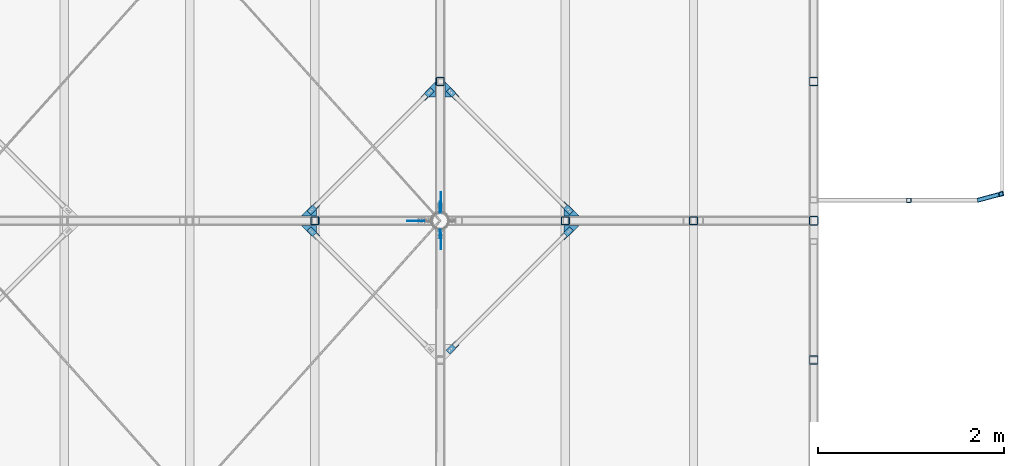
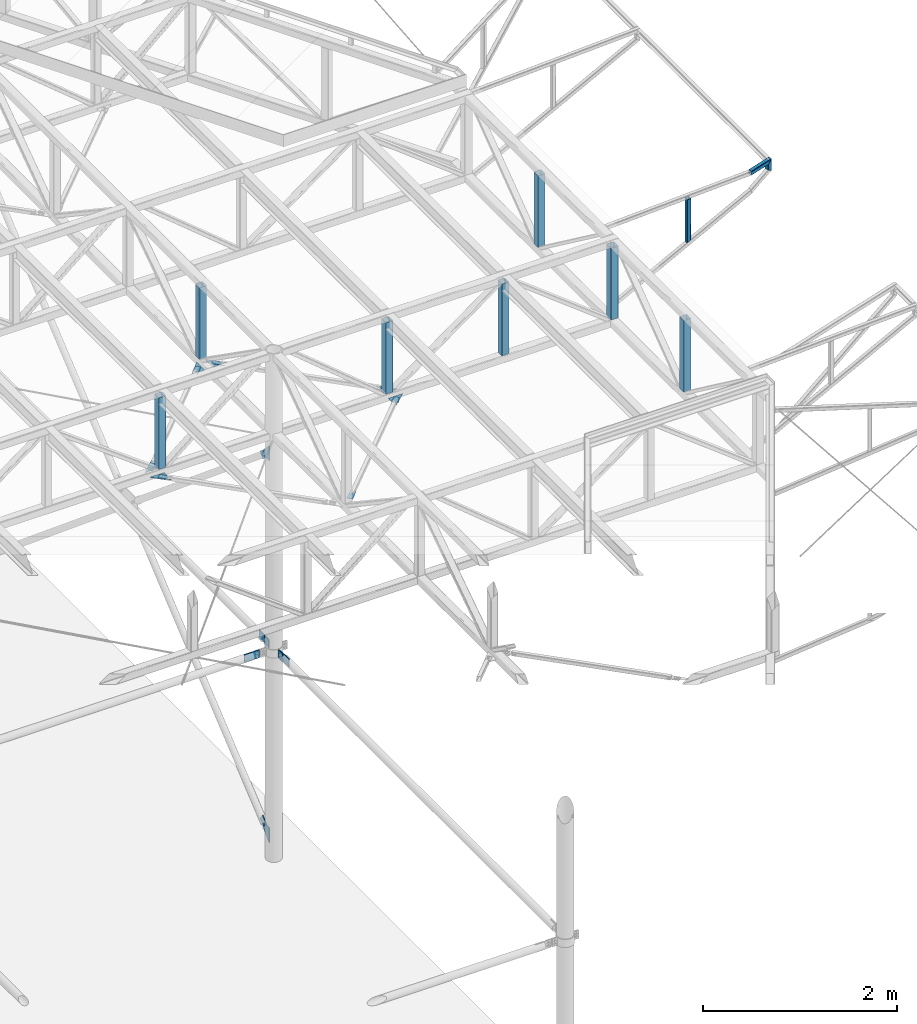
# One storey, part 84 of 132: 32 discrete accessories, 19 elements without a shape of their own.
"""IFC2X3 building model written with IfcOpenShell, lengths in millimetres."""

from ifc_helpers import new_model, si_unit, frame, origin_with_axes, origin_2d_with_axis, place, context, subcontext, project, spatial, polyline, rectangle, hollow_rectangle, outline, extrude, boolean, clip, halfspace, material, type_object, element, aggregate, save


model = new_model("IFC2X3")

# Units and contexts
model_context = context("Model", 3, precision=1e-05, world=origin_with_axes())
body_context = subcontext(model_context, "Body", "Model", "MODEL_VIEW")
ifc_project = project(units=[si_unit("LENGTHUNIT", "METRE", prefix="MILLI"), si_unit("AREAUNIT", "SQUARE_METRE"), si_unit("VOLUMEUNIT", "CUBIC_METRE"), si_unit("MASSUNIT", "GRAM", prefix="KILO"), si_unit("TIMEUNIT", "SECOND"), si_unit("PLANEANGLEUNIT", "RADIAN"), si_unit("SOLIDANGLEUNIT", "STERADIAN"), si_unit("THERMODYNAMICTEMPERATUREUNIT", "DEGREE_CELSIUS"), si_unit("LUMINOUSINTENSITYUNIT", "LUMEN")], contexts=[model_context])

# Site, building, storey
site_placement = place(None, origin_with_axes())
site = spatial("IfcSite", under=ifc_project, at=site_placement, Name="Budowa", CompositionType="ELEMENT")
building_placement = place(site_placement, origin_with_axes())
building = spatial("IfcBuilding", under=site, at=building_placement, Name="Undefined", CompositionType="ELEMENT")
storey_placement = place(building_placement, origin_with_axes())
storey = spatial("IfcBuildingStorey", under=building, at=storey_placement, Name="Undefined", CompositionType="ELEMENT", Elevation=0.0)

# Assembly, discrete accessory
assembly_1_placement = place(storey_placement, origin_with_axes())
assembly_1 = element("IfcElementAssembly", 1, at=assembly_1_placement, inside=storey, Name="Steel Assembly", AssemblyPlace="NOTDEFINED", PredefinedType="RIGID_FRAME")
ifc_material = material(Name="STEEL/S235")
discrete_accessory_type_1 = type_object("IfcDiscreteAccessoryType", Name="BLACHA")
discrete_accessory_1_placement = place(assembly_1_placement, frame((20232.9999972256, 11872.0920947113, 10116.0003779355), z_axis=(-1.0, 0.0, 0.0), x_axis=(0.0, -1.0, 0.0)))
discrete_accessory_1 = element("IfcDiscreteAccessory", 2, at=discrete_accessory_1_placement, type_object=discrete_accessory_type_1, material=ifc_material, Name="BLACHA", ObjectType="BL8*100", context=body_context, shape_type="SweptSolid", body=[
    extrude(outline(polyline([(180.0, -50.0), (0.0, -50.0), (0.0, 50.0), (180.0, 50.0), (180.0, -50.0)])), frame((0.0, 0.0, -4.0), z_axis=(0.0, 0.0, 1.0), x_axis=(1.0, 0.0, 0.0)), (0.0, 0.0, 1.0), 8.0),
])
aggregate(assembly_1, [discrete_accessory_1])

assembly_2_placement = place(storey_placement, origin_with_axes())
assembly_2 = element("IfcElementAssembly", 3, at=assembly_2_placement, inside=storey, Name="Steel Assembly", AssemblyPlace="NOTDEFINED", PredefinedType="RIGID_FRAME")
discrete_accessory_2_placement = place(assembly_2_placement, frame((20224.9999972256, 11902.0043566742, 10066.0003759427), z_axis=(1.0, 0.0, 0.0), x_axis=(0.0, 0.0, 1.0)))
discrete_accessory_2 = element("IfcDiscreteAccessory", 4, at=discrete_accessory_2_placement, type_object=discrete_accessory_type_1, material=ifc_material, Name="BLACHA", ObjectType="BL8*90", context=body_context, shape_type="SweptSolid", body=[
    extrude(outline(polyline([(0.0, 0.0), (100.0, 0.0), (100.0, 89.9122619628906), (0.0, 89.9122619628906), (0.0, 0.0)])), frame((0.0, 0.0, -4.0), z_axis=(0.0, 0.0, 1.0), x_axis=(1.0, 0.0, 0.0)), (0.0, 0.0, 1.0), 8.0),
])
aggregate(assembly_2, [discrete_accessory_2])

assembly_3_placement = place(storey_placement, origin_with_axes())
assembly_3 = element("IfcElementAssembly", 5, at=assembly_3_placement, inside=storey, Name="Steel Assembly", AssemblyPlace="NOTDEFINED", PredefinedType="RIGID_FRAME")
discrete_accessory_3_placement = place(assembly_3_placement, frame((20232.9999969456, 12127.9079054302, 10116.0003779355), z_axis=(-1.0, 0.0, 0.0), x_axis=(0.0, 1.0, 0.0)))
discrete_accessory_3 = element("IfcDiscreteAccessory", 6, at=discrete_accessory_3_placement, type_object=discrete_accessory_type_1, material=ifc_material, Name="BLACHA", ObjectType="BL8*100", context=body_context, shape_type="SweptSolid", body=[
    extrude(outline(polyline([(0.0, 50.0), (180.0, 50.0), (180.0, -50.0), (0.0, -50.0), (0.0, 50.0)])), frame((0.0, 0.0, -4.0), z_axis=(0.0, 0.0, 1.0), x_axis=(1.0, 0.0, 0.0)), (0.0, 0.0, 1.0), 8.0),
])
aggregate(assembly_3, [discrete_accessory_3])

assembly_4_placement = place(storey_placement, origin_with_axes())
assembly_4 = element("IfcElementAssembly", 7, at=assembly_4_placement, inside=storey, Name="Steel Assembly", AssemblyPlace="NOTDEFINED", PredefinedType="RIGID_FRAME")
discrete_accessory_4_placement = place(assembly_4_placement, frame((20224.9999969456, 12097.9956434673, 10166.0003762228), z_axis=(1.0, 0.0, 0.0), x_axis=(0.0, 0.0, -1.0)))
discrete_accessory_4 = element("IfcDiscreteAccessory", 8, at=discrete_accessory_4_placement, type_object=discrete_accessory_type_1, material=ifc_material, Name="BLACHA", ObjectType="BL8*90", context=body_context, shape_type="SweptSolid", body=[
    extrude(outline(polyline([(0.0, 0.0), (100.0, 0.0), (100.0, 89.9122619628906), (0.0, 89.9122619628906), (0.0, 0.0)])), frame((0.0, 0.0, -4.0), z_axis=(0.0, 0.0, 1.0), x_axis=(1.0, 0.0, 0.0)), (0.0, 0.0, 1.0), 8.0),
])
aggregate(assembly_4, [discrete_accessory_4])

assembly_5_placement = place(storey_placement, origin_with_axes())
assembly_5 = element("IfcElementAssembly", 9, at=assembly_5_placement, inside=storey, Name="Steel Assembly", AssemblyPlace="NOTDEFINED", PredefinedType="RIGID_FRAME")
discrete_accessory_5_placement = place(assembly_5_placement, frame((20051.8633056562, 11997.9999994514, 10116.0003779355), z_axis=(0.0, 1.0, 0.0), x_axis=(-1.0, 0.0, 0.0)))
discrete_accessory_5 = element("IfcDiscreteAccessory", 10, at=discrete_accessory_5_placement, type_object=discrete_accessory_type_1, material=ifc_material, Name="BLACHA", ObjectType="BL8*100", context=body_context, shape_type="SweptSolid", body=[
    extrude(outline(polyline([(180.0, -50.0), (0.0, -50.0), (0.0, 50.0), (180.0, 50.0), (180.0, -50.0)])), frame((0.0, 0.0, -4.0), z_axis=(0.0, 0.0, 1.0), x_axis=(1.0, 0.0, 0.0)), (0.0, 0.0, 1.0), 8.0),
])
aggregate(assembly_5, [discrete_accessory_5])

assembly_6_placement = place(storey_placement, origin_with_axes())
assembly_6 = element("IfcElementAssembly", 11, at=assembly_6_placement, inside=storey, Name="Steel Assembly", AssemblyPlace="NOTDEFINED", PredefinedType="RIGID_FRAME")
discrete_accessory_6_placement = place(assembly_6_placement, frame((20232.9999999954, 12120.951207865, 7723.25167813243), z_axis=(0.0, 0.639165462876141, -0.769069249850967), x_axis=(0.0, 0.769069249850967, 0.639165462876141)))
discrete_accessory_6 = element("IfcDiscreteAccessory", 12, at=discrete_accessory_6_placement, type_object=discrete_accessory_type_1, material=ifc_material, Name="BLACHA", ObjectType="BL8*86", context=body_context, shape_type="CSG", body=[
    boolean("DIFFERENCE", boolean("DIFFERENCE", extrude(rectangle(XDim=8.0, YDim=86.0, at=origin_2d_with_axis()), frame((190.000000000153, -3.63797880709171e-12, 3.30513394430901e-13), z_axis=(-1.0, 0.0, 0.0), x_axis=(0.0, -1.0, 0.0)), (0.0, 0.0, 1.0), 190.0), extrude(outline(polyline([(0.0, 0.0), (20.0000000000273, -3.63797880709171e-12), (5.45696821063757e-12, 20.0000000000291), (0.0, 0.0)])), frame((0.0, 6.50000013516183, -43.0), z_axis=(0.0, -1.0, 0.0), x_axis=(1.0, 0.0, 0.0)), (0.0, 0.0, 1.0), 13.0)), extrude(outline(polyline([(0.0, 0.0), (20.0000000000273, -3.63797880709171e-12), (5.45696821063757e-12, 20.0000000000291), (0.0, 0.0)])), frame((3.63797880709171e-12, -6.49999986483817, 43.0), z_axis=(0.0, 1.0, 0.0), x_axis=(1.0, 0.0, 0.0)), (0.0, 0.0, 1.0), 13.0)),
])
aggregate(assembly_6, [discrete_accessory_6])

assembly_7_placement = place(storey_placement, origin_with_axes())
assembly_7 = element("IfcElementAssembly", 13, at=assembly_7_placement, inside=storey, Name="Steel Assembly", AssemblyPlace="NOTDEFINED", PredefinedType="RIGID_FRAME")
discrete_accessory_7_placement = place(assembly_7_placement, frame((20225.0000024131, 12088.9000000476, 7811.00054931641), z_axis=(1.0, 0.0, 0.0), x_axis=(0.0, 0.0, -1.0)))
discrete_accessory_7 = element("IfcDiscreteAccessory", 14, at=discrete_accessory_7_placement, type_object=discrete_accessory_type_1, material=ifc_material, Name="BLACHA", ObjectType="BL8*126", context=body_context, shape_type="SweptSolid", body=[
    extrude(outline(polyline([(0.0, 0.0), (188.000686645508, 0.0), (188.000686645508, 10.0), (60.999870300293, 126.000648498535), (3.18323145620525e-09, 76.0014114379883), (0.0, 0.0)])), frame((0.0, 0.0, -4.0), z_axis=(0.0, 0.0, 1.0), x_axis=(1.0, 0.0, 0.0)), (0.0, 0.0, 1.0), 8.0),
])

assembly_8_placement = place(storey_placement, origin_with_axes())
assembly_8 = element("IfcElementAssembly", 15, at=assembly_8_placement, inside=storey, Name="Steel Assembly", AssemblyPlace="NOTDEFINED", PredefinedType="RIGID_FRAME")
discrete_accessory_8_placement = place(assembly_8_placement, frame((20232.9999999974, 12120.9512117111, 12508.7489949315), z_axis=(0.0, -0.63916553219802, -0.769069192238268), x_axis=(0.0, 0.769069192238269, -0.639165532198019)))
discrete_accessory_8 = element("IfcDiscreteAccessory", 16, at=discrete_accessory_8_placement, type_object=discrete_accessory_type_1, material=ifc_material, Name="BLACHA", ObjectType="BL8*86", context=body_context, shape_type="CSG", body=[
    boolean("DIFFERENCE", boolean("DIFFERENCE", extrude(rectangle(XDim=8.0, YDim=86.0, at=origin_2d_with_axis()), frame((190.000000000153, -3.63797880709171e-12, 3.30513394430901e-13), z_axis=(-1.0, 0.0, 0.0), x_axis=(0.0, -1.0, 0.0)), (0.0, 0.0, 1.0), 190.0), extrude(outline(polyline([(0.0, 0.0), (20.0000000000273, -3.63797880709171e-12), (5.45696821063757e-12, 20.0000000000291), (0.0, 0.0)])), frame((0.0, 6.50000013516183, -43.0), z_axis=(0.0, -1.0, 0.0), x_axis=(1.0, 0.0, 0.0)), (0.0, 0.0, 1.0), 13.0)), extrude(outline(polyline([(0.0, 0.0), (20.0000000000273, -3.63797880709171e-12), (5.45696821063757e-12, 20.0000000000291), (0.0, 0.0)])), frame((3.63797880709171e-12, -6.49999986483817, 43.0), z_axis=(0.0, 1.0, 0.0), x_axis=(1.0, 0.0, 0.0)), (0.0, 0.0, 1.0), 13.0)),
])
aggregate(assembly_8, [discrete_accessory_8])

# Discrete accessory
discrete_accessory_9_placement = place(assembly_7_placement, frame((20225.000002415, 12088.9000000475, 12608.9999313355), z_axis=(1.0, 0.0, 0.0), x_axis=(0.0, 0.0, -1.0)))
discrete_accessory_9 = element("IfcDiscreteAccessory", 17, at=discrete_accessory_9_placement, type_object=discrete_accessory_type_1, material=ifc_material, Name="BLACHA", ObjectType="BL8*126", context=body_context, shape_type="SweptSolid", body=[
    extrude(outline(polyline([(0.0, 0.0), (187.999725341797, 0.0), (187.999725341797, 76.0014114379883), (126.999855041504, 126.000648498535), (0.0, 10.0), (0.0, 0.0)])), frame((0.0, 0.0, -4.0), z_axis=(0.0, 0.0, 1.0), x_axis=(1.0, 0.0, 0.0)), (0.0, 0.0, 1.0), 8.0),
])

aggregate(assembly_7, [discrete_accessory_7, discrete_accessory_9])

# Assembly, discrete accessory
assembly_9_placement = place(storey_placement, origin_with_axes())
assembly_9 = element("IfcElementAssembly", 18, at=assembly_9_placement, inside=storey, Name="Steel Assembly", AssemblyPlace="NOTDEFINED", PredefinedType="RIGID_FRAME")
discrete_accessory_10_placement = place(assembly_9_placement, frame((21519.3786419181, 12162.9949513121, 12830.0), z_axis=(0.0, 0.0, 1.0), x_axis=(0.707106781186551, -0.707106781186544, 0.0)))
discrete_accessory_10 = element("IfcDiscreteAccessory", 19, at=discrete_accessory_10_placement, type_object=discrete_accessory_type_1, material=ifc_material, Name="BLACHA", ObjectType="BL6*60", context=body_context, shape_type="SweptSolid", body=[
    extrude(outline(polyline([(0.0, 0.0), (139.99999999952, -6.2755134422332e-10), (139.99999999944, 59.9999999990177), (0.0, 60.0), (-8.00355337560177e-11, 54.9999999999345), (49.9999999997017, 54.9999999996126), (49.9999999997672, 4.99999999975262), (-8.73114913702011e-11, 5.00000000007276), (0.0, 0.0)])), frame((0.0, 0.0, -3.0), z_axis=(0.0, 0.0, 1.0), x_axis=(1.0, 0.0, 0.0)), (0.0, 0.0, 1.0), 6.0),
])

assembly_10_placement = place(storey_placement, origin_with_axes())
assembly_10 = element("IfcElementAssembly", 20, at=assembly_10_placement, inside=storey, Name="Steel Assembly", AssemblyPlace="NOTDEFINED", PredefinedType="RIGID_FRAME")
discrete_accessory_11_placement = place(assembly_10_placement, frame((21558.2695167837, 12050.000000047, 12824.0), z_axis=(0.0, 0.0, 1.0), x_axis=(1.0, 0.0, 0.0)))
discrete_accessory_11 = element("IfcDiscreteAccessory", 21, at=discrete_accessory_11_placement, type_object=discrete_accessory_type_1, material=ifc_material, Name="BLACHA", ObjectType="BL6*117", context=body_context, shape_type="SweptSolid", body=[
    extrude(outline(polyline([(0.0, 0.0), (166.027954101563, 0.0), (49.4974746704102, 116.530487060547), (0.0, 67.0330123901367), (0.0, 0.0)])), frame((0.0, 0.0, -3.0), z_axis=(0.0, 0.0, 1.0), x_axis=(1.0, 0.0, 0.0)), (0.0, 0.0, 1.0), 6.0),
])

# Discrete accessory
discrete_accessory_12_placement = place(assembly_9_placement, frame((20430.4213581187, 13336.8050488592, 12830.0), z_axis=(0.0, 0.0, 1.0), x_axis=(-0.707106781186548, 0.707106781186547, 0.0)))
discrete_accessory_12 = element("IfcDiscreteAccessory", 22, at=discrete_accessory_12_placement, type_object=discrete_accessory_type_1, material=ifc_material, Name="BLACHA", ObjectType="BL6*60", context=body_context, shape_type="SweptSolid", body=[
    extrude(outline(polyline([(0.0, 0.0), (139.99999999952, -6.2755134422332e-10), (139.99999999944, 59.9999999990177), (0.0, 60.0), (-8.00355337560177e-11, 54.9999999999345), (49.9999999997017, 54.9999999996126), (49.9999999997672, 4.99999999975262), (-8.73114913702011e-11, 5.00000000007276), (0.0, 0.0)])), frame((0.0, 0.0, -3.0), z_axis=(0.0, 0.0, 1.0), x_axis=(1.0, 0.0, 0.0)), (0.0, 0.0, 1.0), 6.0),
])

aggregate(assembly_9, [discrete_accessory_10, discrete_accessory_12])

# Assembly, discrete accessory
assembly_11_placement = place(storey_placement, origin_with_axes())
assembly_11 = element("IfcElementAssembly", 23, at=assembly_11_placement, inside=storey, Name="Steel Assembly", AssemblyPlace="NOTDEFINED", PredefinedType="RIGID_FRAME")
discrete_accessory_13_placement = place(assembly_11_placement, frame((20275.0, 13499.2974747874, 12824.0), z_axis=(0.0, 0.0, 1.0), x_axis=(0.0, -1.0, 0.0)))
discrete_accessory_13 = element("IfcDiscreteAccessory", 24, at=discrete_accessory_13_placement, type_object=discrete_accessory_type_1, material=ifc_material, Name="BLACHA", ObjectType="BL6*117", context=body_context, shape_type="SweptSolid", body=[
    extrude(outline(polyline([(0.0, 0.0), (166.027954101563, 0.0), (166.027954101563, 67.0330123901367), (116.530487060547, 116.530487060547), (0.0, 0.0)])), frame((0.0, 0.0, -3.0), z_axis=(0.0, 0.0, 1.0), x_axis=(1.0, 0.0, 0.0)), (0.0, 0.0, 1.0), 6.0),
])

assembly_12_placement = place(storey_placement, origin_with_axes())
assembly_12 = element("IfcElementAssembly", 25, at=assembly_12_placement, inside=storey, Name="Steel Assembly", AssemblyPlace="NOTDEFINED", PredefinedType="RIGID_FRAME")
discrete_accessory_14_placement = place(assembly_12_placement, frame((21562.0050487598, 11794.5786419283, 12830.0), z_axis=(0.0, 0.0, 1.0), x_axis=(0.707106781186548, 0.707106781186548, 0.0)))
discrete_accessory_14 = element("IfcDiscreteAccessory", 26, at=discrete_accessory_14_placement, type_object=discrete_accessory_type_1, material=ifc_material, Name="BLACHA", ObjectType="BL6*60", context=body_context, shape_type="SweptSolid", body=[
    extrude(outline(polyline([(0.0, 0.0), (139.99999999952, -6.2755134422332e-10), (139.99999999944, 59.9999999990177), (0.0, 60.0), (-8.00355337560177e-11, 54.9999999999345), (49.9999999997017, 54.9999999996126), (49.9999999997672, 4.99999999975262), (-8.73114913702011e-11, 5.00000000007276), (0.0, 0.0)])), frame((0.0, 0.0, -3.0), z_axis=(0.0, 0.0, 1.0), x_axis=(1.0, 0.0, 0.0)), (0.0, 0.0, 1.0), 6.0),
])

# Discrete accessory
discrete_accessory_15_placement = place(assembly_10_placement, frame((21724.4974746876, 11950.000000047, 12824.0), z_axis=(0.0, 0.0, 1.0), x_axis=(-1.0, 0.0, 0.0)))
discrete_accessory_15 = element("IfcDiscreteAccessory", 27, at=discrete_accessory_15_placement, type_object=discrete_accessory_type_1, material=ifc_material, Name="BLACHA", ObjectType="BL6*117", context=body_context, shape_type="SweptSolid", body=[
    extrude(outline(polyline([(0.0, 0.0), (166.027954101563, 0.0), (166.027954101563, 67.0330123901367), (116.530487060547, 116.530487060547), (0.0, 0.0)])), frame((0.0, 0.0, -3.0), z_axis=(0.0, 0.0, 1.0), x_axis=(1.0, 0.0, 0.0)), (0.0, 0.0, 1.0), 6.0),
])

discrete_accessory_16_placement = place(assembly_12_placement, frame((20387.9949512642, 10705.4213581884, 12830.0), z_axis=(0.0, 0.0, 1.0), x_axis=(-0.70710678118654, -0.707106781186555, 0.0)))
discrete_accessory_16 = element("IfcDiscreteAccessory", 28, at=discrete_accessory_16_placement, type_object=discrete_accessory_type_1, material=ifc_material, Name="BLACHA", ObjectType="BL6*60", context=body_context, shape_type="SweptSolid", body=[
    extrude(outline(polyline([(0.0, 0.0), (139.99999999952, -6.2755134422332e-10), (139.99999999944, 59.9999999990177), (0.0, 60.0), (-8.00355337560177e-11, 54.9999999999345), (49.9999999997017, 54.9999999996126), (49.9999999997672, 4.99999999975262), (-8.73114913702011e-11, 5.00000000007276), (0.0, 0.0)])), frame((0.0, 0.0, -3.0), z_axis=(0.0, 0.0, 1.0), x_axis=(1.0, 0.0, 0.0)), (0.0, 0.0, 1.0), 6.0),
])

aggregate(assembly_12, [discrete_accessory_14, discrete_accessory_16])

# Assembly, discrete accessory
assembly_13_placement = place(storey_placement, origin_with_axes())
assembly_13 = element("IfcElementAssembly", 29, at=assembly_13_placement, inside=storey, Name="Steel Assembly", AssemblyPlace="NOTDEFINED", PredefinedType="RIGID_FRAME")
discrete_accessory_17_placement = place(assembly_13_placement, frame((18888.1949511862, 12205.4213581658, 12830.0), z_axis=(0.0, 0.0, 1.0), x_axis=(-0.70710678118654, -0.707106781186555, 0.0)))
discrete_accessory_17 = element("IfcDiscreteAccessory", 30, at=discrete_accessory_17_placement, type_object=discrete_accessory_type_1, material=ifc_material, Name="BLACHA", ObjectType="BL6*60", context=body_context, shape_type="SweptSolid", body=[
    extrude(outline(polyline([(0.0, 0.0), (139.99999999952, -6.2755134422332e-10), (139.99999999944, 59.9999999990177), (0.0, 60.0), (-8.00355337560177e-11, 54.9999999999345), (49.9999999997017, 54.9999999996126), (49.9999999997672, 4.99999999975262), (-8.73114913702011e-11, 5.00000000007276), (0.0, 0.0)])), frame((0.0, 0.0, -3.0), z_axis=(0.0, 0.0, 1.0), x_axis=(1.0, 0.0, 0.0)), (0.0, 0.0, 1.0), 6.0),
])

assembly_14_placement = place(storey_placement, origin_with_axes())
assembly_14 = element("IfcElementAssembly", 31, at=assembly_14_placement, inside=storey, Name="Steel Assembly", AssemblyPlace="NOTDEFINED", PredefinedType="RIGID_FRAME")
discrete_accessory_18_placement = place(assembly_14_placement, frame((18725.7025252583, 12050.000000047, 12824.0), z_axis=(0.0, 0.0, 1.0), x_axis=(1.0, 0.0, 0.0)))
discrete_accessory_18 = element("IfcDiscreteAccessory", 32, at=discrete_accessory_18_placement, type_object=discrete_accessory_type_1, material=ifc_material, Name="BLACHA", ObjectType="BL6*117", context=body_context, shape_type="SweptSolid", body=[
    extrude(outline(polyline([(0.0, 0.0), (166.027954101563, 0.0), (166.027954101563, 67.0330123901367), (116.530487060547, 116.530487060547), (0.0, 0.0)])), frame((0.0, 0.0, -3.0), z_axis=(0.0, 0.0, 1.0), x_axis=(1.0, 0.0, 0.0)), (0.0, 0.0, 1.0), 6.0),
])

# Discrete accessory
discrete_accessory_19_placement = place(assembly_13_placement, frame((20062.0050487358, 13294.3786419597, 12830.0), z_axis=(0.0, 0.0, 1.0), x_axis=(0.707106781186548, 0.707106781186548, 0.0)))
discrete_accessory_19 = element("IfcDiscreteAccessory", 33, at=discrete_accessory_19_placement, type_object=discrete_accessory_type_1, material=ifc_material, Name="BLACHA", ObjectType="BL6*60", context=body_context, shape_type="SweptSolid", body=[
    extrude(outline(polyline([(0.0, 0.0), (139.99999999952, -6.2755134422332e-10), (139.99999999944, 59.9999999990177), (0.0, 60.0), (-8.00355337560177e-11, 54.9999999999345), (49.9999999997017, 54.9999999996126), (49.9999999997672, 4.99999999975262), (-8.73114913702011e-11, 5.00000000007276), (0.0, 0.0)])), frame((0.0, 0.0, -3.0), z_axis=(0.0, 0.0, 1.0), x_axis=(1.0, 0.0, 0.0)), (0.0, 0.0, 1.0), 6.0),
])

aggregate(assembly_13, [discrete_accessory_17, discrete_accessory_19])

discrete_accessory_20_placement = place(assembly_11_placement, frame((20175.0, 13333.2695168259, 12824.0), z_axis=(0.0, 0.0, 1.0), x_axis=(0.0, 1.0, 0.0)))
discrete_accessory_20 = element("IfcDiscreteAccessory", 34, at=discrete_accessory_20_placement, type_object=discrete_accessory_type_1, material=ifc_material, Name="BLACHA", ObjectType="BL6*117", context=body_context, shape_type="SweptSolid", body=[
    extrude(outline(polyline([(0.0, 0.0), (166.027954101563, 0.0), (49.4974746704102, 116.530487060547), (0.0, 67.0330123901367), (0.0, 0.0)])), frame((0.0, 0.0, -3.0), z_axis=(0.0, 0.0, 1.0), x_axis=(1.0, 0.0, 0.0)), (0.0, 0.0, 1.0), 6.0),
])

# Assembly, discrete accessory
assembly_15_placement = place(storey_placement, origin_with_axes())
assembly_15 = element("IfcElementAssembly", 35, at=assembly_15_placement, inside=storey, Name="Steel Assembly", AssemblyPlace="NOTDEFINED", PredefinedType="RIGID_FRAME")
discrete_accessory_21_placement = place(assembly_15_placement, frame((18930.4213581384, 11837.005048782, 12830.0), z_axis=(0.0, 0.0, 1.0), x_axis=(-0.707106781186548, 0.707106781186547, 0.0)))
discrete_accessory_21 = element("IfcDiscreteAccessory", 36, at=discrete_accessory_21_placement, type_object=discrete_accessory_type_1, material=ifc_material, Name="BLACHA", ObjectType="BL6*60", context=body_context, shape_type="SweptSolid", body=[
    extrude(outline(polyline([(0.0, 0.0), (139.99999999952, -6.2755134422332e-10), (139.99999999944, 59.9999999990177), (0.0, 60.0), (-8.00355337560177e-11, 54.9999999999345), (49.9999999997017, 54.9999999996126), (49.9999999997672, 4.99999999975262), (-8.73114913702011e-11, 5.00000000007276), (0.0, 0.0)])), frame((0.0, 0.0, -3.0), z_axis=(0.0, 0.0, 1.0), x_axis=(1.0, 0.0, 0.0)), (0.0, 0.0, 1.0), 6.0),
])
aggregate(assembly_15, [discrete_accessory_21])

# Discrete accessory
discrete_accessory_22_placement = place(assembly_14_placement, frame((18891.5304832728, 11950.000000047, 12824.0), z_axis=(0.0, 0.0, 1.0), x_axis=(-1.0, 0.0, 0.0)))
discrete_accessory_22 = element("IfcDiscreteAccessory", 37, at=discrete_accessory_22_placement, type_object=discrete_accessory_type_1, material=ifc_material, Name="BLACHA", ObjectType="BL6*117", context=body_context, shape_type="SweptSolid", body=[
    extrude(outline(polyline([(0.0, 0.0), (166.027954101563, 0.0), (49.4974746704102, 116.530487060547), (0.0, 67.0330123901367), (0.0, 0.0)])), frame((0.0, 0.0, -3.0), z_axis=(0.0, 0.0, 1.0), x_axis=(1.0, 0.0, 0.0)), (0.0, 0.0, 1.0), 6.0),
])

# Assembly, discrete accessories
assembly_16_placement = place(storey_placement, origin_with_axes())
assembly_16 = element("IfcElementAssembly", 38, at=assembly_16_placement, inside=storey, Name="Steel Assembly", AssemblyPlace="NOTDEFINED", PredefinedType="RIGID_FRAME")
discrete_accessory_type_2 = type_object("IfcDiscreteAccessoryType", Name="BEAM")
discrete_accessory_23_placement = place(assembly_16_placement, frame((26269.3817595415, 12288.7752394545, 13980.4994882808), z_axis=(-0.258819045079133, 0.965925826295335, 0.0), x_axis=(0.0, 0.0, -1.0)))
discrete_accessory_23 = element("IfcDiscreteAccessory", 39, at=discrete_accessory_23_placement, type_object=discrete_accessory_type_2, material=ifc_material, Name="BEAM", ObjectType="SHS50*4", context=body_context, shape_type="Clipping", body=[
    clip(clip(extrude(hollow_rectangle(XDim=50.0, YDim=50.0, WallThickness=4.0, InnerFilletRadius=4.0, OuterFilletRadius=8.0, at=origin_2d_with_axis()), frame((176.697426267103, 0.0, 0.0), z_axis=(-1.0, 0.0, 0.0), x_axis=(0.0, -1.0, 0.0)), (0.0, 0.0, 1.0), 192.46), halfspace(frame((149.999998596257, -25.0000000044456, 4.06544131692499e-09), z_axis=(0.852359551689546, 0.522956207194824, 0.0), x_axis=(0.0, 0.0, 1.0)), False)), halfspace(frame((-0.00517941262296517, -25.0000000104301, 1.04982973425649e-08), z_axis=(-0.689225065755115, 0.724547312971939, 0.0), x_axis=(0.0, 0.0, -1.0)), False)),
])
discrete_accessory_24_placement = place(assembly_16_placement, frame((24362.7871924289, 11777.9047649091, 13855.5308400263), z_axis=(-0.258819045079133, 0.965925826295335, 0.0), x_axis=(0.964720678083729, 0.258496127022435, 0.049937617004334)))
discrete_accessory_24 = element("IfcDiscreteAccessory", 40, at=discrete_accessory_24_placement, type_object=discrete_accessory_type_2, material=ifc_material, Name="BEAM", ObjectType="SHS50*4", context=body_context, shape_type="CSG", body=[
    boolean("DIFFERENCE", boolean("DIFFERENCE", boolean("DIFFERENCE", extrude(hollow_rectangle(XDim=50.0, YDim=50.0, WallThickness=4.0, InnerFilletRadius=4.0, OuterFilletRadius=8.0, at=origin_2d_with_axis()), frame((2015.47100691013, -1.86094482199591e-12, -1.69516671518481e-12), z_axis=(-1.0, 0.0, 0.0), x_axis=(0.0, -1.0, 0.0)), (0.0, 0.0, 1.0), 2119.81), extrude(outline(polyline([(0.0, 0.0), (50.4314498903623, 8.00355337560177e-11), (586.450195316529, 2133.70190428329), (-113.420433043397, 2120.24487303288), (0.0, 0.0)])), frame((1715.65671002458, -42.0528500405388, 24.9999995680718), z_axis=(-0.0499376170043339, 0.998752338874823, 2.09020387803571e-11), x_axis=(-0.130363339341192, -0.00651816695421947, -0.991444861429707)), (0.0, 0.0, 1.0), 159.0)), halfspace(frame((2002.5989463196, -25.0000000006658, -7.85761585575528e-07), z_axis=(-0.689225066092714, -0.724547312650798, 2.88487317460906e-10), x_axis=(0.0, 0.0, -1.0)), True)), halfspace(frame((-171.869819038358, 967.65572877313, -217.307428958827), z_axis=(-0.964720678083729, -0.0482360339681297, 0.25881904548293), x_axis=(-0.0499376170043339, 0.998752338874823, 2.09020387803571e-11)), False)),
])
aggregate(assembly_16, [discrete_accessory_23, discrete_accessory_24])

# Assembly, discrete accessory
assembly_17_placement = place(storey_placement, origin_with_axes())
assembly_17 = element("IfcElementAssembly", 41, at=assembly_17_placement, inside=storey, Name="Steel Assembly", AssemblyPlace="NOTDEFINED", PredefinedType="RIGID_FRAME")
discrete_accessory_25_placement = place(assembly_17_placement, frame((25275.0003814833, 12220.0000000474, 13878.9400283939), z_axis=(0.0, 1.0, 0.0), x_axis=(0.0, 0.0, -1.0)))
discrete_accessory_25 = element("IfcDiscreteAccessory", 42, at=discrete_accessory_25_placement, type_object=discrete_accessory_type_2, material=ifc_material, Name="BEAM", ObjectType="SHS50*4", context=body_context, shape_type="Clipping", body=[
    clip(clip(extrude(hollow_rectangle(XDim=50.0, YDim=50.0, WallThickness=4.0, InnerFilletRadius=4.0, OuterFilletRadius=8.0, at=origin_2d_with_axis()), frame((545.085010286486, 0.0, 0.0), z_axis=(-1.0, 0.0, 0.0), x_axis=(0.0, -1.0, 0.0)), (0.0, 0.0, 1.0), 559.36), halfspace(frame((536.667324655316, 11.6203888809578, 999.999999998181), z_axis=(-0.885407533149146, 0.464815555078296, 0.0), x_axis=(-0.464815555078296, -0.885407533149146, 0.0)), True)), halfspace(frame((0.185048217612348, -1.24844042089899, 999.999999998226), z_axis=(0.998752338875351, -0.0499376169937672, 0.0), x_axis=(0.0499376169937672, 0.998752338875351, 0.0)), True)),
])
aggregate(assembly_17, [discrete_accessory_25])

assembly_18_placement = place(storey_placement, origin_with_axes())
assembly_18 = element("IfcElementAssembly", 43, at=assembly_18_placement, inside=storey, Name="Steel Assembly", AssemblyPlace="NOTDEFINED", PredefinedType="RIGID_FRAME")
discrete_accessory_26_placement = place(assembly_18_placement, frame((24249.9, 13500.0000000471, 12880.0), z_axis=(0.0, 0.0, 1.0), x_axis=(0.0, 1.0, 0.0)))
discrete_accessory_26 = element("IfcDiscreteAccessory", 44, at=discrete_accessory_26_placement, type_object=discrete_accessory_type_2, material=ifc_material, Name="BEAM", ObjectType="SHS90*4", context=body_context, shape_type="Clipping", body=[
    clip(clip(extrude(hollow_rectangle(XDim=90.0, YDim=90.0, WallThickness=4.0, InnerFilletRadius=4.0, OuterFilletRadius=8.0, at=origin_2d_with_axis()), frame((0.0, 0.0, 900.0), z_axis=(0.0, 0.0, -1.0), x_axis=(0.0, 1.0, 0.0)), (0.0, 0.0, 1.0), 900.0), halfspace(frame((1000.0, 0.0, 900.0), z_axis=(0.0, 0.0, -1.0), x_axis=(0.0, 1.0, 0.0)), True)), halfspace(frame((1000.0, 0.0, 0.0), z_axis=(0.0, 0.0, 1.0), x_axis=(0.0, -1.0, 0.0)), True)),
])
aggregate(assembly_18, [discrete_accessory_26])

assembly_19_placement = place(storey_placement, origin_with_axes())
assembly_19 = element("IfcElementAssembly", 45, at=assembly_19_placement, inside=storey, Name="Steel Assembly", AssemblyPlace="NOTDEFINED", PredefinedType="RIGID_FRAME")
discrete_accessory_27_placement = place(assembly_19_placement, frame((24249.9, 10500.0000000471, 12880.0), z_axis=(0.0, 0.0, 1.0), x_axis=(0.0, 1.0, 0.0)))
discrete_accessory_27 = element("IfcDiscreteAccessory", 46, at=discrete_accessory_27_placement, type_object=discrete_accessory_type_2, material=ifc_material, Name="BEAM", ObjectType="SHS90*4", context=body_context, shape_type="Clipping", body=[
    clip(clip(extrude(hollow_rectangle(XDim=90.0, YDim=90.0, WallThickness=4.0, InnerFilletRadius=4.0, OuterFilletRadius=8.0, at=origin_2d_with_axis()), frame((0.0, 0.0, 900.0), z_axis=(0.0, 0.0, -1.0), x_axis=(0.0, 1.0, 0.0)), (0.0, 0.0, 1.0), 900.0), halfspace(frame((1000.0, 0.0, 900.0), z_axis=(0.0, 0.0, -1.0), x_axis=(0.0, 1.0, 0.0)), True)), halfspace(frame((1000.0, 0.0, 0.0), z_axis=(0.0, 0.0, 1.0), x_axis=(0.0, -1.0, 0.0)), True)),
])
aggregate(assembly_19, [discrete_accessory_27])

# Discrete accessory
discrete_accessory_28_placement = place(assembly_10_placement, frame((21573.9, 12000.000000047, 13780.0), z_axis=(-1.0, 0.0, 0.0), x_axis=(0.0, 0.0, -1.0)))
discrete_accessory_28 = element("IfcDiscreteAccessory", 47, at=discrete_accessory_28_placement, type_object=discrete_accessory_type_2, material=ifc_material, Name="BEAM", ObjectType="SHS90*6", context=body_context, shape_type="Clipping", body=[
    clip(clip(extrude(hollow_rectangle(XDim=90.0, YDim=90.0, WallThickness=6.0, InnerFilletRadius=6.0, OuterFilletRadius=12.0, at=origin_2d_with_axis()), frame((900.0, 0.0, 0.0), z_axis=(-1.0, 0.0, 0.0), x_axis=(0.0, -1.0, 0.0)), (0.0, 0.0, 1.0), 900.0), halfspace(frame((900.0, 0.0, 1000.0), z_axis=(-1.0, 0.0, 0.0), x_axis=(0.0, -1.0, 0.0)), True)), halfspace(frame((0.0, 0.0, 1000.0), z_axis=(1.0, 0.0, 0.0), x_axis=(0.0, 1.0, 0.0)), True)),
])

discrete_accessory_29_placement = place(assembly_10_placement, frame((22954.9, 12000.000000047, 13780.0), z_axis=(-1.0, 0.0, 0.0), x_axis=(0.0, 0.0, -1.0)))
discrete_accessory_29 = element("IfcDiscreteAccessory", 48, at=discrete_accessory_29_placement, type_object=discrete_accessory_type_2, material=ifc_material, Name="BEAM", ObjectType="SHS90*6", context=body_context, shape_type="Clipping", body=[
    clip(clip(extrude(hollow_rectangle(XDim=90.0, YDim=90.0, WallThickness=6.0, InnerFilletRadius=6.0, OuterFilletRadius=12.0, at=origin_2d_with_axis()), frame((900.0, 0.0, 0.0), z_axis=(-1.0, 0.0, 0.0), x_axis=(0.0, -1.0, 0.0)), (0.0, 0.0, 1.0), 900.0), halfspace(frame((900.0, 0.0, 1000.0), z_axis=(-1.0, 0.0, 0.0), x_axis=(0.0, -1.0, 0.0)), True)), halfspace(frame((0.0, 0.0, 1000.0), z_axis=(1.0, 0.0, 0.0), x_axis=(0.0, 1.0, 0.0)), True)),
])

discrete_accessory_30_placement = place(assembly_10_placement, frame((24249.9, 12000.000000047, 13780.0), z_axis=(-1.0, 0.0, 0.0), x_axis=(0.0, 0.0, -1.0)))
discrete_accessory_30 = element("IfcDiscreteAccessory", 49, at=discrete_accessory_30_placement, type_object=discrete_accessory_type_2, material=ifc_material, Name="BEAM", ObjectType="SHS100*8", context=body_context, shape_type="Clipping", body=[
    clip(clip(extrude(hollow_rectangle(XDim=100.0, YDim=100.0, WallThickness=8.0, InnerFilletRadius=8.0, OuterFilletRadius=16.0, at=origin_2d_with_axis()), frame((900.0, 0.0, 0.0), z_axis=(-1.0, 0.0, 0.0), x_axis=(0.0, -1.0, 0.0)), (0.0, 0.0, 1.0), 900.0), halfspace(frame((900.0, 0.0, 1000.0), z_axis=(-1.0, 0.0, 0.0), x_axis=(0.0, -1.0, 0.0)), True)), halfspace(frame((0.0, 0.0, 1000.0), z_axis=(1.0, 0.0, 0.0), x_axis=(0.0, 1.0, 0.0)), True)),
])

aggregate(assembly_10, [discrete_accessory_11, discrete_accessory_15, discrete_accessory_28, discrete_accessory_29, discrete_accessory_30])

discrete_accessory_31_placement = place(assembly_11_placement, frame((20225.0, 13500.000000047, 13780.0), z_axis=(1.0, 0.0, 0.0), x_axis=(0.0, 0.0, -1.0)))
discrete_accessory_31 = element("IfcDiscreteAccessory", 50, at=discrete_accessory_31_placement, type_object=discrete_accessory_type_2, material=ifc_material, Name="BEAM", ObjectType="SHS90*6", context=body_context, shape_type="Clipping", body=[
    clip(clip(extrude(hollow_rectangle(XDim=90.0, YDim=90.0, WallThickness=6.0, InnerFilletRadius=6.0, OuterFilletRadius=12.0, at=origin_2d_with_axis()), frame((900.0, 0.0, 0.0), z_axis=(-1.0, 0.0, 0.0), x_axis=(0.0, -1.0, 0.0)), (0.0, 0.0, 1.0), 900.0), halfspace(frame((900.0, 0.0, 1000.0), z_axis=(-1.0, 0.0, 0.0), x_axis=(0.0, -1.0, 0.0)), True)), halfspace(frame((0.0, 0.0, 1000.0), z_axis=(1.0, 0.0, 0.0), x_axis=(0.0, 1.0, 0.0)), True)),
])

aggregate(assembly_11, [discrete_accessory_13, discrete_accessory_20, discrete_accessory_31])

discrete_accessory_32_placement = place(assembly_14_placement, frame((18874.9999999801, 12000.000000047, 13780.0), z_axis=(0.0, -1.0, 0.0), x_axis=(0.0, 0.0, -1.0)))
discrete_accessory_32 = element("IfcDiscreteAccessory", 51, at=discrete_accessory_32_placement, type_object=discrete_accessory_type_2, material=ifc_material, Name="BEAM", ObjectType="SHS90*6", context=body_context, shape_type="Clipping", body=[
    clip(clip(extrude(hollow_rectangle(XDim=90.0, YDim=90.0, WallThickness=6.0, InnerFilletRadius=6.0, OuterFilletRadius=12.0, at=origin_2d_with_axis()), frame((900.0, 0.0, 0.0), z_axis=(-1.0, 0.0, 0.0), x_axis=(0.0, -1.0, 0.0)), (0.0, 0.0, 1.0), 900.0), halfspace(frame((900.0, 0.0, 1000.0), z_axis=(-1.0, 0.0, 0.0), x_axis=(0.0, -1.0, 0.0)), True)), halfspace(frame((0.0, 0.0, 1000.0), z_axis=(1.0, 0.0, 0.0), x_axis=(0.0, 1.0, 0.0)), True)),
])

aggregate(assembly_14, [discrete_accessory_18, discrete_accessory_22, discrete_accessory_32])

save(model, "model.ifc")
